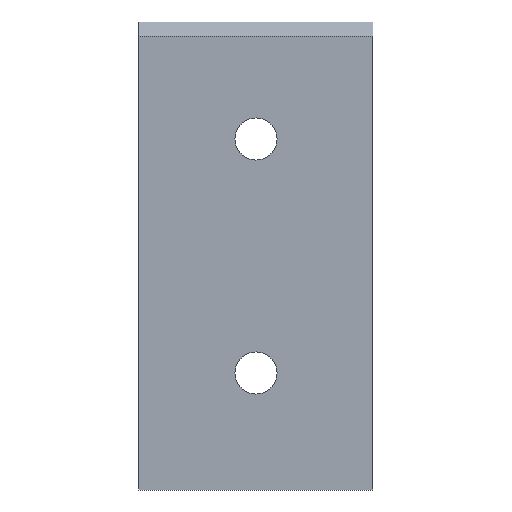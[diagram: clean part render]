
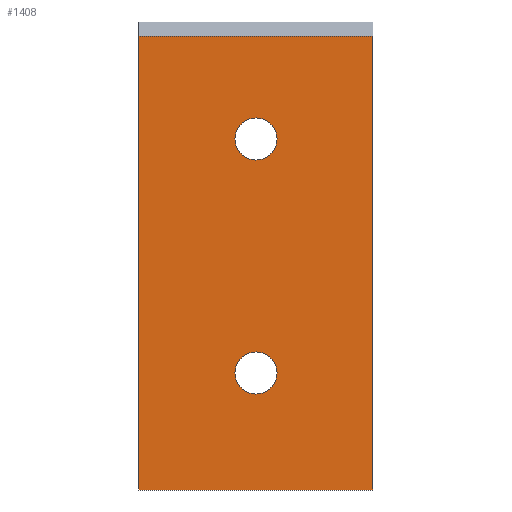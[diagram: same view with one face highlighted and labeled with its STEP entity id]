
A CAD part, front view. The second image highlights one B-rep face of the part: STEP entity #1408.
In plain terms, the highlighted planar face has unit normal (0, -1, 0).
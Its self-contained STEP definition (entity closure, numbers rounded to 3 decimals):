
#52 = DIRECTION ( 'NONE',  ( 0., 0., -1. ) ) ;
#99 = CARTESIAN_POINT ( 'NONE',  ( 50., 0., 0. ) ) ;
#110 = AXIS2_PLACEMENT_3D ( 'NONE', #647, #657, #3695 ) ;
#127 = FACE_BOUND ( 'NONE', #795, .T. ) ;
#137 = LINE ( 'NONE', #1471, #3347 ) ;
#244 = VERTEX_POINT ( 'NONE', #1343 ) ;
#325 = CARTESIAN_POINT ( 'NONE',  ( 25., 0., 75. ) ) ;
#342 = DIRECTION ( 'NONE',  ( 1., 0., 0. ) ) ;
#352 = DIRECTION ( 'NONE',  ( 0., -1., 0. ) ) ;
#363 = VERTEX_POINT ( 'NONE', #99 ) ;
#398 = VECTOR ( 'NONE', #2140, 1000. ) ;
#428 = CIRCLE ( 'NONE', #2281, 4.5 ) ;
#515 = CARTESIAN_POINT ( 'NONE',  ( 20.5, 0., 25. ) ) ;
#533 = DIRECTION ( 'NONE',  ( 1., 0., 0. ) ) ;
#569 = CARTESIAN_POINT ( 'NONE',  ( 0., 0., 48.5 ) ) ;
#647 = CARTESIAN_POINT ( 'NONE',  ( 0., 0., 100. ) ) ;
#657 = DIRECTION ( 'NONE',  ( 0., -1., 0. ) ) ;
#669 = VERTEX_POINT ( 'NONE', #3948 ) ;
#721 = VERTEX_POINT ( 'NONE', #877 ) ;
#761 = LINE ( 'NONE', #569, #2258 ) ;
#769 = ORIENTED_EDGE ( 'NONE', *, *, #2780, .F. ) ;
#795 = EDGE_LOOP ( 'NONE', ( #2807, #3061 ) ) ;
#833 = DIRECTION ( 'NONE',  ( 1., 0., 0. ) ) ;
#853 = DIRECTION ( 'NONE',  ( 0., -1., 0. ) ) ;
#877 = CARTESIAN_POINT ( 'NONE',  ( 20.5, 0., 75. ) ) ;
#936 = CARTESIAN_POINT ( 'NONE',  ( 25., 0., 25. ) ) ;
#1070 = FACE_OUTER_BOUND ( 'NONE', #2740, .T. ) ;
#1121 = EDGE_CURVE ( 'NONE', #244, #1213, #761, .T. ) ;
#1161 = CIRCLE ( 'NONE', #1652, 4.5 ) ;
#1213 = VERTEX_POINT ( 'NONE', #2862 ) ;
#1226 = DIRECTION ( 'NONE',  ( 1., 0., 0. ) ) ;
#1289 = LINE ( 'NONE', #2441, #398 ) ;
#1319 = EDGE_CURVE ( 'NONE', #1886, #721, #1161, .T. ) ;
#1343 = CARTESIAN_POINT ( 'NONE',  ( 0., 0., 97. ) ) ;
#1375 = PLANE ( 'NONE',  #110 ) ;
#1384 = AXIS2_PLACEMENT_3D ( 'NONE', #325, #352, #342 ) ;
#1402 = DIRECTION ( 'NONE',  ( 1., 0., 0. ) ) ;
#1408 = ADVANCED_FACE ( 'NONE', ( #1070, #3333, #127 ), #1375, .T. ) ;
#1410 = VERTEX_POINT ( 'NONE', #515 ) ;
#1471 = CARTESIAN_POINT ( 'NONE',  ( 25., 0., 97. ) ) ;
#1559 = ORIENTED_EDGE ( 'NONE', *, *, #1121, .T. ) ;
#1649 = EDGE_LOOP ( 'NONE', ( #3802, #3727 ) ) ;
#1652 = AXIS2_PLACEMENT_3D ( 'NONE', #2213, #853, #833 ) ;
#1687 = LINE ( 'NONE', #1813, #3968 ) ;
#1735 = CARTESIAN_POINT ( 'NONE',  ( 29.5, 0., 75. ) ) ;
#1813 = CARTESIAN_POINT ( 'NONE',  ( 25., 0., 0. ) ) ;
#1886 = VERTEX_POINT ( 'NONE', #1735 ) ;
#1903 = CIRCLE ( 'NONE', #1384, 4.5 ) ;
#1908 = VERTEX_POINT ( 'NONE', #2091 ) ;
#2075 = ORIENTED_EDGE ( 'NONE', *, *, #3981, .F. ) ;
#2091 = CARTESIAN_POINT ( 'NONE',  ( 50., 0., 97. ) ) ;
#2140 = DIRECTION ( 'NONE',  ( 0., 0., -1. ) ) ;
#2213 = CARTESIAN_POINT ( 'NONE',  ( 25., 0., 75. ) ) ;
#2258 = VECTOR ( 'NONE', #52, 1000. ) ;
#2281 = AXIS2_PLACEMENT_3D ( 'NONE', #2747, #2468, #3131 ) ;
#2360 = ORIENTED_EDGE ( 'NONE', *, *, #2860, .T. ) ;
#2441 = CARTESIAN_POINT ( 'NONE',  ( 50., 0., 48.5 ) ) ;
#2468 = DIRECTION ( 'NONE',  ( 0., -1., 0. ) ) ;
#2474 = CIRCLE ( 'NONE', #4011, 4.5 ) ;
#2566 = EDGE_CURVE ( 'NONE', #669, #1410, #428, .T. ) ;
#2740 = EDGE_LOOP ( 'NONE', ( #1559, #2360, #2075, #769 ) ) ;
#2747 = CARTESIAN_POINT ( 'NONE',  ( 25., 0., 25. ) ) ;
#2775 = EDGE_CURVE ( 'NONE', #721, #1886, #1903, .T. ) ;
#2780 = EDGE_CURVE ( 'NONE', #244, #1908, #137, .T. ) ;
#2807 = ORIENTED_EDGE ( 'NONE', *, *, #1319, .F. ) ;
#2860 = EDGE_CURVE ( 'NONE', #1213, #363, #1687, .T. ) ;
#2862 = CARTESIAN_POINT ( 'NONE',  ( 0., 0., 0. ) ) ;
#3061 = ORIENTED_EDGE ( 'NONE', *, *, #2775, .F. ) ;
#3069 = DIRECTION ( 'NONE',  ( 0., -1., 0. ) ) ;
#3131 = DIRECTION ( 'NONE',  ( 1., 0., 0. ) ) ;
#3187 = EDGE_CURVE ( 'NONE', #1410, #669, #2474, .T. ) ;
#3333 = FACE_BOUND ( 'NONE', #1649, .T. ) ;
#3347 = VECTOR ( 'NONE', #533, 1000. ) ;
#3695 = DIRECTION ( 'NONE',  ( 0., 0., -1. ) ) ;
#3727 = ORIENTED_EDGE ( 'NONE', *, *, #2566, .F. ) ;
#3802 = ORIENTED_EDGE ( 'NONE', *, *, #3187, .F. ) ;
#3948 = CARTESIAN_POINT ( 'NONE',  ( 29.5, 0., 25. ) ) ;
#3968 = VECTOR ( 'NONE', #1402, 1000. ) ;
#3981 = EDGE_CURVE ( 'NONE', #1908, #363, #1289, .T. ) ;
#4011 = AXIS2_PLACEMENT_3D ( 'NONE', #936, #3069, #1226 ) ;
